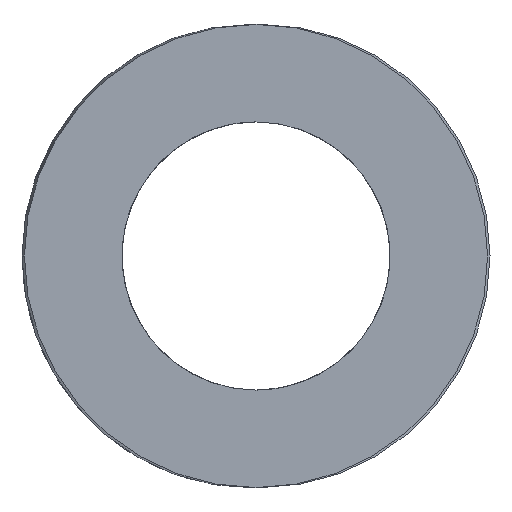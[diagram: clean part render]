
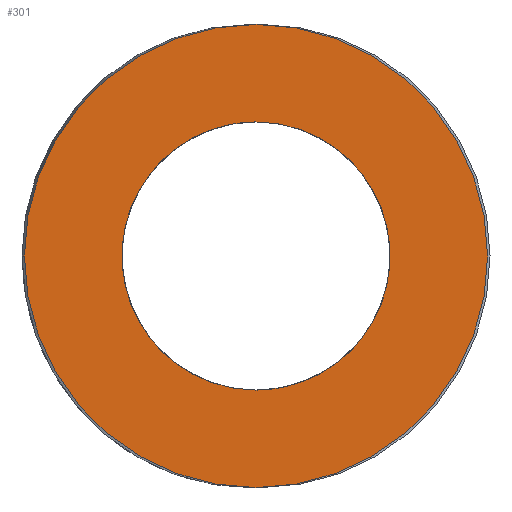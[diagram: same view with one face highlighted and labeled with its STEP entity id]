
A CAD part, left-side view. The second image highlights one B-rep face of the part: STEP entity #301.
In plain terms, the highlighted planar face has unit normal (-1, 0, 0).
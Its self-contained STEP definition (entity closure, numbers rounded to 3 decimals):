
#63=CARTESIAN_POINT('Vertex',(0.,7.6,0.)) ;
#77=CARTESIAN_POINT('Vertex',(0.,-7.6,0.)) ;
#80=CARTESIAN_POINT('Axis2P3D Location',(0.,0.,0.)) ;
#97=CARTESIAN_POINT('Axis2P3D Location',(0.,0.,0.)) ;
#232=CARTESIAN_POINT('Axis2P3D Location',(0.,3.8,0.)) ;
#242=CARTESIAN_POINT('Control Point',(0.,0.,-4.4)) ;
#243=CARTESIAN_POINT('Control Point',(0.,0.411,-4.4)) ;
#244=CARTESIAN_POINT('Control Point',(0.,0.822,-4.352)) ;
#245=CARTESIAN_POINT('Control Point',(0.,1.226,-4.256)) ;
#246=CARTESIAN_POINT('Control Point',(0.,2.003,-3.972)) ;
#247=CARTESIAN_POINT('Control Point',(0.,2.694,-3.516)) ;
#248=CARTESIAN_POINT('Control Point',(0.,3.011,-3.248)) ;
#249=CARTESIAN_POINT('Control Point',(0.,3.577,-2.644)) ;
#250=CARTESIAN_POINT('Control Point',(0.,3.988,-1.926)) ;
#251=CARTESIAN_POINT('Control Point',(0.,4.151,-1.544)) ;
#252=CARTESIAN_POINT('Control Point',(0.,4.384,-0.75)) ;
#253=CARTESIAN_POINT('Control Point',(0.,4.428,0.076)) ;
#254=CARTESIAN_POINT('Control Point',(0.,4.402,0.49)) ;
#255=CARTESIAN_POINT('Control Point',(0.,4.252,1.304)) ;
#256=CARTESIAN_POINT('Control Point',(0.,3.92,2.062)) ;
#257=CARTESIAN_POINT('Control Point',(0.,3.71,2.42)) ;
#258=CARTESIAN_POINT('Control Point',(0.,3.21,3.079)) ;
#259=CARTESIAN_POINT('Control Point',(0.,2.571,3.606)) ;
#260=CARTESIAN_POINT('Control Point',(0.,2.223,3.831)) ;
#261=CARTESIAN_POINT('Control Point',(0.,1.581,4.145)) ;
#262=CARTESIAN_POINT('Control Point',(0.,0.892,4.324)) ;
#263=CARTESIAN_POINT('Control Point',(0.,0.597,4.375)) ;
#264=CARTESIAN_POINT('Control Point',(0.,0.298,4.4)) ;
#265=CARTESIAN_POINT('Control Point',(0.,0.,4.4)) ;
#266=CARTESIAN_POINT('Vertex',(0.,0.,-4.4)) ;
#268=CARTESIAN_POINT('Vertex',(0.,0.,4.4)) ;
#272=CARTESIAN_POINT('Control Point',(0.,0.,4.4)) ;
#273=CARTESIAN_POINT('Control Point',(0.,-0.411,4.4)) ;
#274=CARTESIAN_POINT('Control Point',(0.,-0.822,4.352)) ;
#275=CARTESIAN_POINT('Control Point',(0.,-1.226,4.256)) ;
#276=CARTESIAN_POINT('Control Point',(0.,-2.003,3.972)) ;
#277=CARTESIAN_POINT('Control Point',(0.,-2.694,3.516)) ;
#278=CARTESIAN_POINT('Control Point',(0.,-3.011,3.248)) ;
#279=CARTESIAN_POINT('Control Point',(0.,-3.577,2.644)) ;
#280=CARTESIAN_POINT('Control Point',(0.,-3.988,1.926)) ;
#281=CARTESIAN_POINT('Control Point',(0.,-4.151,1.544)) ;
#282=CARTESIAN_POINT('Control Point',(0.,-4.384,0.75)) ;
#283=CARTESIAN_POINT('Control Point',(0.,-4.428,-0.076)) ;
#284=CARTESIAN_POINT('Control Point',(0.,-4.402,-0.49)) ;
#285=CARTESIAN_POINT('Control Point',(0.,-4.252,-1.304)) ;
#286=CARTESIAN_POINT('Control Point',(0.,-3.92,-2.062)) ;
#287=CARTESIAN_POINT('Control Point',(0.,-3.71,-2.42)) ;
#288=CARTESIAN_POINT('Control Point',(0.,-3.21,-3.079)) ;
#289=CARTESIAN_POINT('Control Point',(0.,-2.571,-3.606)) ;
#290=CARTESIAN_POINT('Control Point',(0.,-2.223,-3.831)) ;
#291=CARTESIAN_POINT('Control Point',(0.,-1.581,-4.145)) ;
#292=CARTESIAN_POINT('Control Point',(0.,-0.892,-4.324)) ;
#293=CARTESIAN_POINT('Control Point',(0.,-0.597,-4.375)) ;
#294=CARTESIAN_POINT('Control Point',(0.,-0.298,-4.4)) ;
#295=CARTESIAN_POINT('Control Point',(0.,0.,-4.4)) ;
#81=DIRECTION('Axis2P3D Direction',(1.,-0.,0.)) ;
#98=DIRECTION('Axis2P3D Direction',(1.,-0.,0.)) ;
#233=DIRECTION('Axis2P3D Direction',(-1.,0.,0.)) ;
#234=DIRECTION('Axis2P3D XDirection',(0.,1.,0.)) ;
#82=AXIS2_PLACEMENT_3D('Circle Axis2P3D',#80,#81,$) ;
#99=AXIS2_PLACEMENT_3D('Circle Axis2P3D',#97,#98,$) ;
#235=AXIS2_PLACEMENT_3D('Plane Axis2P3D',#232,#233,#234) ;
#238=ORIENTED_EDGE('',*,*,#84,.T.) ;
#239=ORIENTED_EDGE('',*,*,#101,.T.) ;
#298=ORIENTED_EDGE('',*,*,#270,.T.) ;
#299=ORIENTED_EDGE('',*,*,#296,.T.) ;
#300=FACE_BOUND('',#297,.T.) ;
#301=ADVANCED_FACE('392-B16-032',(#240,#300),#236,.T.) ;
#241=B_SPLINE_CURVE_WITH_KNOTS('',5,(#242,#243,#244,#245,#246,#247,#248,#249,#250,#251,#252,#253,#254,#255,#256,#257,#258,#259,#260,#261,#262,#263,#264,#265),.UNSPECIFIED.,.F.,.U.,(6,3,3,3,3,3,3,6),(0.,2.907,5.813,8.72,11.626,14.533,17.439,19.549),.UNSPECIFIED.) ;
#271=B_SPLINE_CURVE_WITH_KNOTS('',5,(#272,#273,#274,#275,#276,#277,#278,#279,#280,#281,#282,#283,#284,#285,#286,#287,#288,#289,#290,#291,#292,#293,#294,#295),.UNSPECIFIED.,.F.,.U.,(6,3,3,3,3,3,3,6),(0.,2.907,5.813,8.72,11.626,14.533,17.439,19.549),.UNSPECIFIED.) ;
#83=CIRCLE('generated circle',#82,7.6) ;
#100=CIRCLE('generated circle',#99,7.6) ;
#84=EDGE_CURVE('',#64,#78,#83,.F.) ;
#101=EDGE_CURVE('',#78,#64,#100,.F.) ;
#270=EDGE_CURVE('',#267,#269,#241,.T.) ;
#296=EDGE_CURVE('',#269,#267,#271,.T.) ;
#237=EDGE_LOOP('',(#238,#239)) ;
#297=EDGE_LOOP('',(#298,#299)) ;
#240=FACE_OUTER_BOUND('',#237,.T.) ;
#236=PLANE('Plane',#235) ;
#64=VERTEX_POINT('',#63) ;
#78=VERTEX_POINT('',#77) ;
#267=VERTEX_POINT('',#266) ;
#269=VERTEX_POINT('',#268) ;
